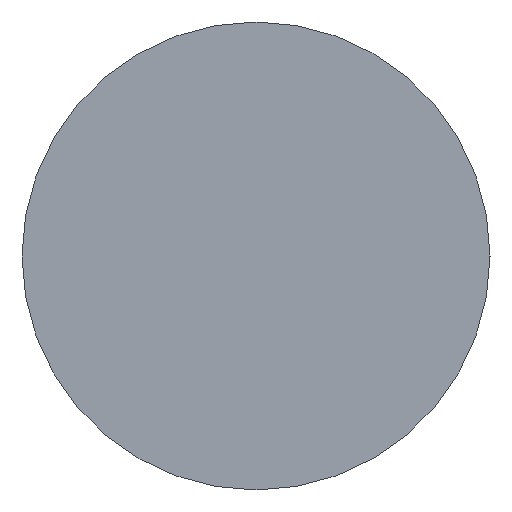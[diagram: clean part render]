
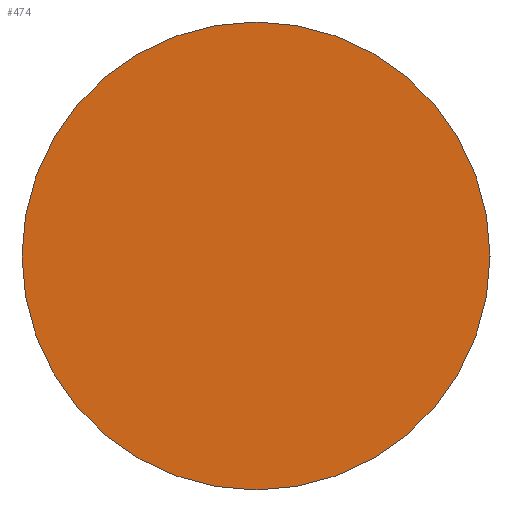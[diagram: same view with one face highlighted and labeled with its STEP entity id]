
A CAD part, left-side view. The second image highlights one B-rep face of the part: STEP entity #474.
In plain terms, the highlighted planar face has unit normal (-1, 0, 0).
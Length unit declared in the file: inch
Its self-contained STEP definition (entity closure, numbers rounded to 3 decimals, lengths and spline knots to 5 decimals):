
#34 = DIRECTION ( 'NONE',  ( -1., 0., 0. ) ) ;
#42 = CARTESIAN_POINT ( 'NONE',  ( -6., 0., 0.5 ) ) ;
#46 = CIRCLE ( 'NONE', #403, 0.5 ) ;
#104 = EDGE_CURVE ( 'NONE', #122, #207, #116, .T. ) ;
#116 = CIRCLE ( 'NONE', #314, 0.5 ) ;
#122 = VERTEX_POINT ( 'NONE', #42 ) ;
#193 = DIRECTION ( 'NONE',  ( 0., 0., 1. ) ) ;
#201 = FACE_OUTER_BOUND ( 'NONE', #346, .T. ) ;
#207 = VERTEX_POINT ( 'NONE', #489 ) ;
#208 = PLANE ( 'NONE',  #515 ) ;
#260 = ORIENTED_EDGE ( 'NONE', *, *, #540, .T. ) ;
#298 = DIRECTION ( 'NONE',  ( 0., 0., -1. ) ) ;
#314 = AXIS2_PLACEMENT_3D ( 'NONE', #608, #34, #193 ) ;
#346 = EDGE_LOOP ( 'NONE', ( #488, #260 ) ) ;
#395 = DIRECTION ( 'NONE',  ( 1., 0., 0. ) ) ;
#403 = AXIS2_PLACEMENT_3D ( 'NONE', #501, #408, #583 ) ;
#408 = DIRECTION ( 'NONE',  ( -1., 0., 0. ) ) ;
#474 = ADVANCED_FACE ( 'NONE', ( #201 ), #208, .F. ) ;
#488 = ORIENTED_EDGE ( 'NONE', *, *, #104, .T. ) ;
#489 = CARTESIAN_POINT ( 'NONE',  ( -6., 0., -0.5 ) ) ;
#501 = CARTESIAN_POINT ( 'NONE',  ( -6., 0., 0. ) ) ;
#515 = AXIS2_PLACEMENT_3D ( 'NONE', #578, #395, #298 ) ;
#540 = EDGE_CURVE ( 'NONE', #207, #122, #46, .T. ) ;
#578 = CARTESIAN_POINT ( 'NONE',  ( -6., 0.5, 0. ) ) ;
#583 = DIRECTION ( 'NONE',  ( 0., 0., 1. ) ) ;
#608 = CARTESIAN_POINT ( 'NONE',  ( -6., 0., 0. ) ) ;
